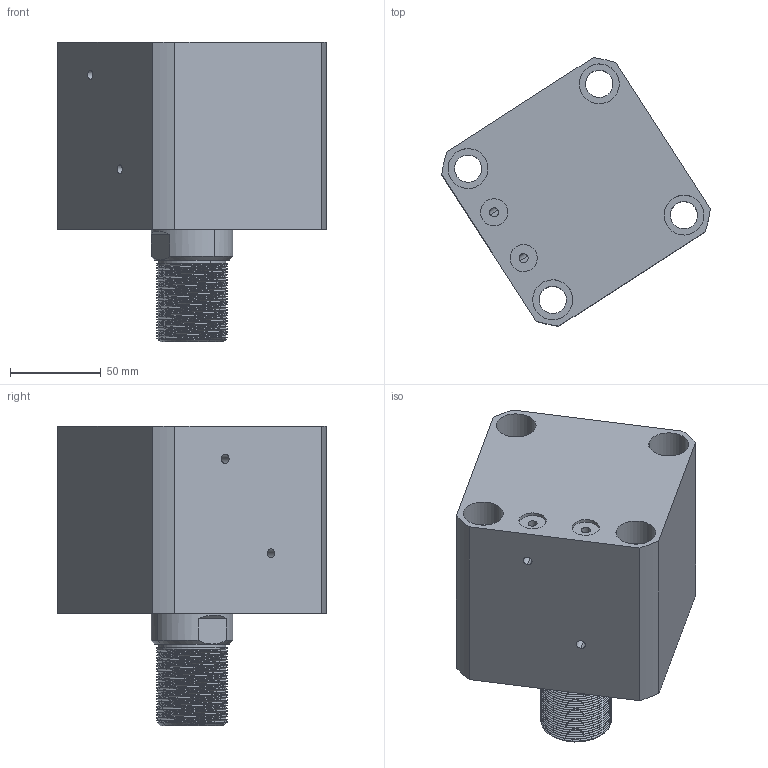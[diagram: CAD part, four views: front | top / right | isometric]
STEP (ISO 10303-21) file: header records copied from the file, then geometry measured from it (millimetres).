
FILE_DESCRIPTION (( 'STEP AP214' ), '1' );
FILE_NAME ('chtb-sdmb80x25w_asm.STEP', '2018-05-26T01:47:25', ( 'Windows' ), ( 'Microsoft' ), 'SwSTEP 2.0', 'SolidWorks 2015', '' );
FILE_SCHEMA (( 'AUTOMOTIVE_DESIGN' ));
Length unit declared in the file: millimetre
Products named in the file (4): CHTB-SDMB80X25NBT; CHTB-SD80X25WHSG; CHTB-SD80QG; chtb-sdmb80x25w_asm
Assembly tree (3 placements, depth 2):
  chtb-sdmb80x25w_asm
    CHTB-SD80QG
    CHTB-SD80X25WHSG
    CHTB-SDMB80X25NBT
Bounding box: 147.81 x 147.81 x 165 mm (x, y, z)
Volume: 1198145.3 mm3; surface area: 182150.1 mm2
Topology: 3 solids, 3 shells, 251 faces, 695 edges, 466 vertices
Faces by surface type: cylinder 163, plane 38, torus 18, bspline 16, cone 16
Entity records: 20297 total; most frequent: CARTESIAN_POINT 14321, ORIENTED_EDGE 1382, DIRECTION 1068, EDGE_CURVE 691, VERTEX_POINT 466, AXIS2_PLACEMENT_3D 433, EDGE_LOOP 289, FACE_OUTER_BOUND 251
